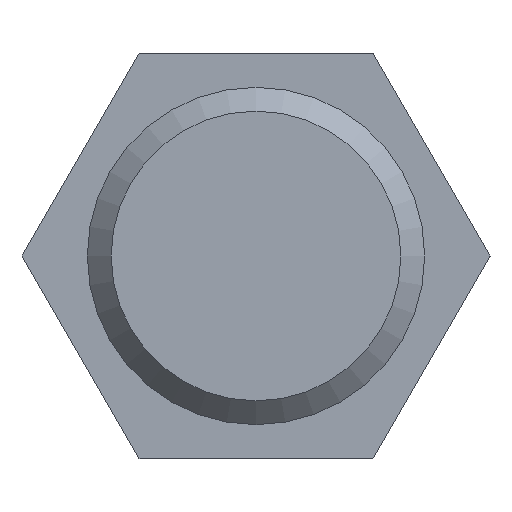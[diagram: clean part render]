
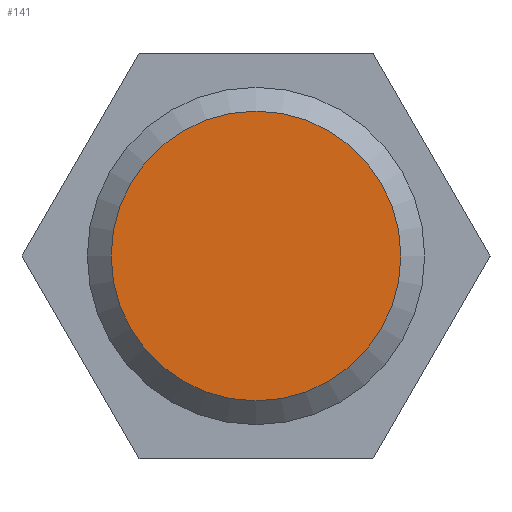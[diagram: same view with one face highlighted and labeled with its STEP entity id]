
A CAD part, left-side view. The second image highlights one B-rep face of the part: STEP entity #141.
In plain terms, the highlighted planar face has unit normal (-1, 0, 0).
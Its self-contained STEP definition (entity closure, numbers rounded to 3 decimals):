
#110=CARTESIAN_POINT('',(0.,6.075,0.));
#111=VERTEX_POINT('',#110);
#112=CARTESIAN_POINT('',(0.,0.0,0.0));
#113=DIRECTION('',(1.0,0.0,0.0));
#114=DIRECTION('',(0.0,-1.0,0.0));
#115=AXIS2_PLACEMENT_3D('',#112,#113,#114);
#116=CIRCLE('',#115,6.075);
#117=EDGE_CURVE('',#111,#111,#116,.T.);
#133=CARTESIAN_POINT('',(0.,3.538,0.0));
#134=DIRECTION('',(-1.0,0.0,0.0));
#135=DIRECTION('',(0.0,0.0,1.0));
#136=AXIS2_PLACEMENT_3D('',#133,#134,#135);
#137=PLANE('',#136);
#138=ORIENTED_EDGE('',*,*,#117,.F.);
#139=EDGE_LOOP('',(#138));
#140=FACE_OUTER_BOUND('',#139,.T.);
#141=ADVANCED_FACE('',(#140),#137,.T.);
